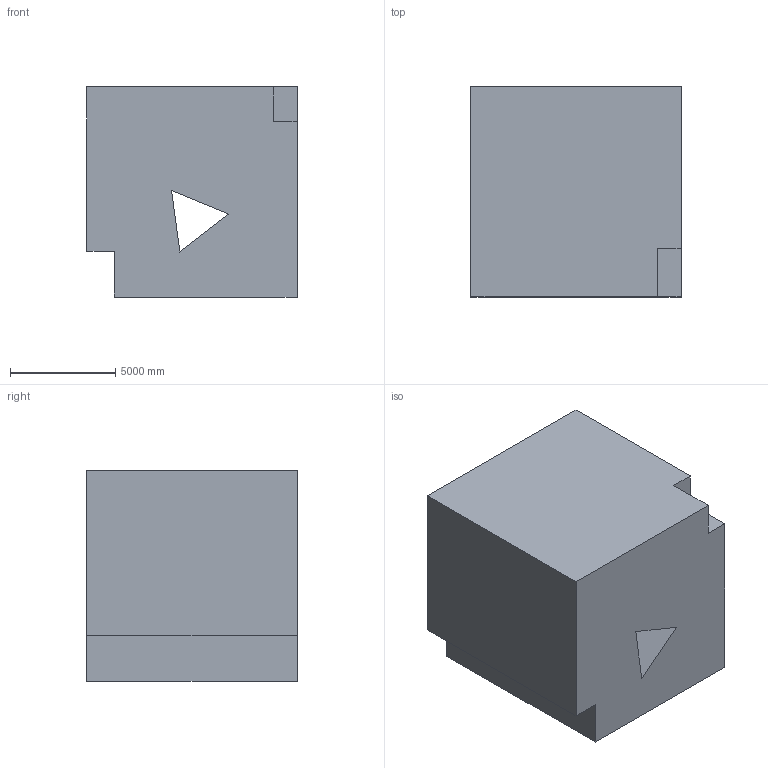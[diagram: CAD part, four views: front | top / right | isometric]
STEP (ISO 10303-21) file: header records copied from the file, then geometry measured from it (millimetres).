
FILE_DESCRIPTION (( 'STEP AP203' ), '1' );
FILE_NAME ('410.STEP', '2022-07-29T11:10:13', ( 'user' ), ( '' ), 'SwSTEP 2.0', 'SolidWorks 2021', '' );
FILE_SCHEMA (( 'CONFIG_CONTROL_DESIGN' ));
Length unit declared in the file: centimetre
Products named in the file (1): 410
Bounding box: 10000 x 10000 x 10000 mm (x, y, z)
Volume: 896520018439.1 mm3; surface area: 721766129.1 mm2
Topology: 1 solids, 1 shells, 22 faces, 60 edges, 40 vertices
Faces by surface type: plane 20, cylinder 2
Entity records: 775 total; most frequent: CARTESIAN_POINT 135, ORIENTED_EDGE 120, DIRECTION 108, EDGE_CURVE 60, VECTOR 50, LINE 50, VERTEX_POINT 40, AXIS2_PLACEMENT_3D 29
